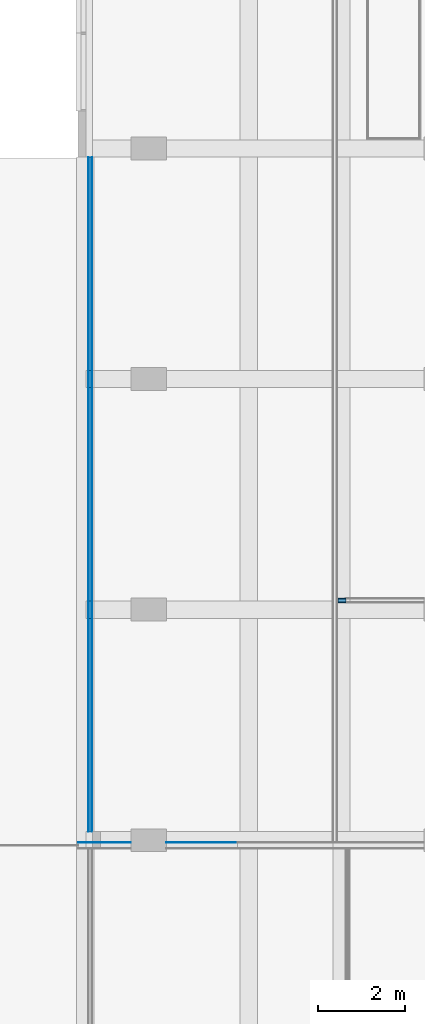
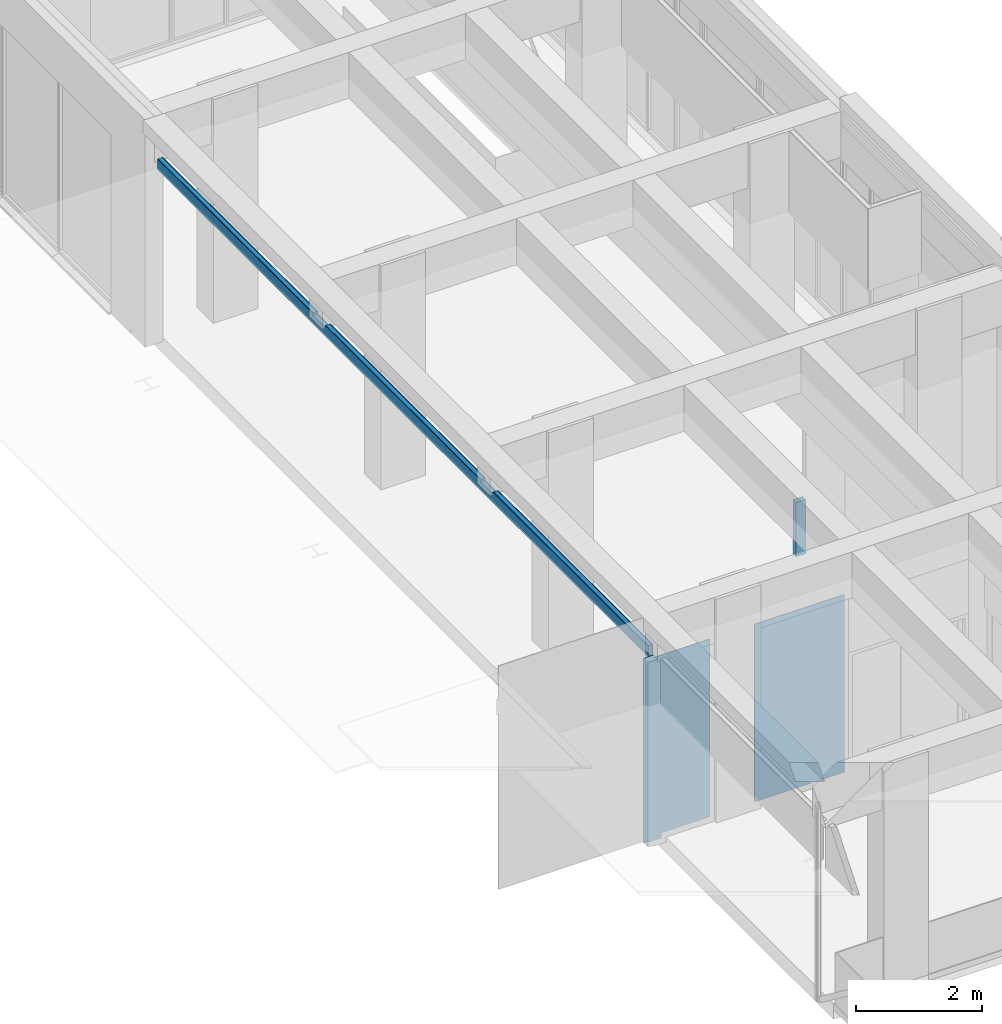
# One storey, part 88 of 117: 7 building element parts, 3 elements without a shape of their own.
"""IFC2X3 building model written with IfcOpenShell, lengths in millimetres."""

from ifc_helpers import new_model, entity, si_unit, converted_unit, derived_unit, money_unit, direction, frame, origin_with_axes, place, context, subcontext, project, spatial, faceted_brep, material, type_object, element, aggregate, save


model = new_model("IFC2X3")

# Units and contexts
model_context = context("Model", 3, precision=0.01, world=origin_with_axes(), true_north=direction((0.0, 1.0)))
body_context = subcontext(model_context, "Body", "Model", "MODEL_VIEW")
ifc_project = project(units=[si_unit("LENGTHUNIT", "METRE", prefix="MILLI"), si_unit("AREAUNIT", "SQUARE_METRE"), si_unit("VOLUMEUNIT", "CUBIC_METRE"), converted_unit("PLANEANGLEUNIT", "DEGREE", entity("IfcPlaneAngleMeasure", 0.0174532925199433), si_unit("PLANEANGLEUNIT", "RADIAN"), dimensions=[0, 0, 0, 0, 0, 0, 0]), money_unit("EUR"), converted_unit("TIMEUNIT", "Year", entity("IfcTimeMeasure", 31557600.0), si_unit("TIMEUNIT", "SECOND"), dimensions=[0, 0, 1, 0, 0, 0, 0]), si_unit("MASSUNIT", "GRAM", prefix="KILO"), si_unit("THERMODYNAMICTEMPERATUREUNIT", "DEGREE_CELSIUS"), si_unit("LUMINOUSINTENSITYUNIT", "LUMEN"), si_unit("ENERGYUNIT", "JOULE", prefix="MEGA"), derived_unit("THERMALCONDUCTANCEUNIT", [(si_unit("POWERUNIT", "WATT"), 1), (si_unit("LENGTHUNIT", "METRE"), -1), (si_unit("THERMODYNAMICTEMPERATUREUNIT", "KELVIN"), -1)]), derived_unit("SPECIFICHEATCAPACITYUNIT", [(si_unit("ENERGYUNIT", "JOULE"), 1), (si_unit("MASSUNIT", "GRAM", prefix="KILO"), -1), (si_unit("THERMODYNAMICTEMPERATUREUNIT", "KELVIN"), -1)]), derived_unit("MASSDENSITYUNIT", [(si_unit("MASSUNIT", "GRAM", prefix="KILO"), 1), (si_unit("VOLUMEUNIT", "CUBIC_METRE"), -1)])], contexts=[model_context])

# Site, building, storey
site_placement = place(None, origin_with_axes())
site = spatial("IfcSite", under=ifc_project, at=site_placement, Name="Site", CompositionType="ELEMENT")
building_placement = place(site_placement, origin_with_axes())
building = spatial("IfcBuilding", under=site, at=building_placement, Name="Naam gebouw", CompositionType="ELEMENT")
storey_placement = place(building_placement, frame((0.0, 0.0, 4150.0), z_axis=(0.0, 0.0, 1.0), x_axis=(1.0, 0.0, 0.0)))
storey = spatial("IfcBuildingStorey", under=building, at=storey_placement, Name="1e verdieping N", CompositionType="ELEMENT", Elevation=4150.0)

# Wall, building element part
wall_type_1 = type_object("IfcWallType", Name="Metalstud iso 150 150", PredefinedType="NOTDEFINED")
wall_1_placement = place(storey_placement, frame((23892.67647959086, 33235.9124251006, -99.99999999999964), z_axis=(0.0, 0.0, 1.0), x_axis=(-1.0, 0.0, 0.0)))
wall_1 = element("IfcWall", 1, at=wall_1_placement, inside=storey, type_object=wall_type_1, Name="_Wand-x")
ifc_material_1 = material(Name="Gipsplaat")
building_element_part_1_placement = place(wall_1_placement, origin_with_axes())
building_element_part_1 = element("IfcBuildingElementPart", 2, at=building_element_part_1_placement, material=ifc_material_1, Name="Gipsplaat", context=body_context, shape_type="Brep", body=[
    faceted_brep([(2466.676479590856, 12.49998490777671, 3549.999999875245), (2466.676479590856, 0.0, 3549.999999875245), (3506.676479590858, 0.0, 3549.999999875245), (3506.676479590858, 12.4999785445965, 3549.999999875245), (2466.676479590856, 0.0, 99.99999999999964), (2466.676479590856, 12.49998423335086, 99.99999999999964), (3356.676479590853, 0.0, 99.99999999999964), (3356.676479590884, 0.0, 0.0), (3596.676479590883, 0.0, 0.0), (3596.676479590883, 0.0, 20.00000000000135), (3681.676479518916, 0.0, 20.00000000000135), (3681.676479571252, 0.0, 99.99999999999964), (3686.676479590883, 0.0, 99.99999999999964), (3686.676479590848, 0.0, 3600.0), (3506.676479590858, 0.0, 3600.0), (3506.676479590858, 12.49998038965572, 3600.0), (3686.676479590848, 12.4999826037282, 3600.0), (3686.676479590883, 12.49999951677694, 99.99999999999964), (3681.676479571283, 12.4999785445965, 99.99999999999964), (3681.676479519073, 12.49999871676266, 20.00000000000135), (3596.676479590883, 12.4999785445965, 20.00000000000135), (3596.676479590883, 12.50000000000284, 0.0), (3356.676479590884, 12.50000000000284, 0.0), (3356.676479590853, 12.4999785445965, 99.99999999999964)], [[[0, 1, 2, 3]], [[4, 1, 0, 5]], [[1, 4, 6, 7, 8, 9, 10, 11, 12, 13, 14, 2]], [[3, 2, 14, 15]], [[5, 0, 3, 15, 16, 17, 18, 19, 20, 21, 22, 23]], [[4, 5, 23, 6]], [[23, 22, 7, 6]], [[21, 8, 7, 22]], [[8, 21, 20, 9]], [[9, 20, 19, 10]], [[19, 18, 11, 10]], [[18, 17, 12, 11]], [[16, 13, 12, 17]], [[16, 15, 14, 13]]]),
    faceted_brep([(1646.676479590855, 0.0, 99.99999999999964), (1646.676479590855, 0.0, 3549.999999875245), (0.0, 0.0, 3549.999999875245), (0.0, 0.0, 99.99999999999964), (1646.676479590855, 12.49998992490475, 3549.999999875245), (1646.676479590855, 12.49998947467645, 99.99999999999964), (0.0, 12.50000000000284, 3549.999999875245), (0.0, 12.50000000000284, 99.99999999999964)], [[[0, 1, 2, 3]], [[4, 1, 0, 5]], [[1, 4, 6, 2]], [[3, 2, 6, 7]], [[5, 0, 3, 7]], [[4, 5, 7, 6]]]),
])
aggregate(wall_1, [building_element_part_1])

# Wall, building element parts
wall_type_2 = type_object("IfcWallType", Name="Metalstud iso 100 100", PredefinedType="NOTDEFINED")
wall_2_placement = place(storey_placement, frame((20536.00000000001, 33485.91242510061, 3300.000000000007), z_axis=(0.0, 0.0, 1.0), x_axis=(0.0, 1.0, 0.0)))
wall_2 = element("IfcWall", 3, at=wall_2_placement, inside=storey, type_object=wall_type_2, Name="_Wand-x")
building_element_part_2_placement = place(wall_2_placement, origin_with_axes())
building_element_part_2 = element("IfcBuildingElementPart", 4, at=building_element_part_2_placement, material=ifc_material_1, Name="Gipsplaat", context=body_context, shape_type="Brep", body=[
    faceted_brep([(10660.0, 100.0000000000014, 199.999999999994), (10660.0, 87.49999999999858, 199.999999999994), (15589.99999999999, 87.49999999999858, 199.999999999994), (15589.99999999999, 100.0000000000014, 199.999999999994), (10660.0, 87.49999999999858, 149.9999999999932), (10660.0, 100.0000000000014, 149.9999999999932), (10259.99999999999, 87.49999999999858, 149.9999999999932), (10259.99999999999, 87.49999999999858, 199.999999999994), (5329.999999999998, 87.49999999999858, 199.999999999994), (5329.999999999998, 87.49999999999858, 149.9999999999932), (4929.999999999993, 87.49999999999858, 149.9999999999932), (4929.999999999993, 87.49999999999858, 199.999999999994), (0.0, 87.49999999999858, 199.999999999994), (0.0, 87.49999999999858, 0.0), (15589.99999999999, 87.49999999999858, 0.0), (15589.99999999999, 100.0000000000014, 0.0), (0.0, 100.0000000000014, 0.0), (0.0, 100.0000000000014, 199.999999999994), (4929.999999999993, 100.0000000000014, 199.999999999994), (4929.999999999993, 100.0000000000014, 149.9999999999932), (5329.999999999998, 100.0000000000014, 149.9999999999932), (5329.999999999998, 100.0000000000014, 199.999999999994), (10259.99999999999, 100.0000000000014, 199.999999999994), (10259.99999999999, 100.0000000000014, 149.9999999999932)], [[[0, 1, 2, 3]], [[4, 1, 0, 5]], [[6, 7, 8, 9, 10, 11, 12, 13, 14, 2, 1, 4]], [[3, 2, 14, 15]], [[5, 0, 3, 15, 16, 17, 18, 19, 20, 21, 22, 23]], [[6, 4, 5, 23]], [[22, 7, 6, 23]], [[7, 22, 21, 8]], [[9, 8, 21, 20]], [[10, 9, 20, 19]], [[18, 11, 10, 19]], [[11, 18, 17, 12]], [[13, 12, 17, 16]], [[16, 15, 14, 13]]]),
])
building_element_part_3_placement = place(wall_2_placement, origin_with_axes())
building_element_part_3 = element("IfcBuildingElementPart", 5, at=building_element_part_3_placement, material=ifc_material_1, Name="Gipsplaat", context=body_context, shape_type="Brep", body=[
    faceted_brep([(10660.0, 12.49999999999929, 199.999999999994), (10660.0, 0.0, 199.999999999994), (15589.99999999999, 0.0, 199.999999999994), (15589.99999999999, 12.49999999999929, 199.999999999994), (10660.0, 0.0, 149.9999999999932), (10660.0, 12.49999999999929, 149.9999999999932), (10259.99999999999, 0.0, 149.9999999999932), (10259.99999999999, 0.0, 199.999999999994), (5329.999999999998, 0.0, 199.999999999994), (5329.999999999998, 0.0, 149.9999999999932), (4929.999999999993, 0.0, 149.9999999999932), (4929.999999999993, 0.0, 199.999999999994), (0.0, 0.0, 199.999999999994), (0.0, 0.0, 0.0), (15589.99999999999, 0.0, 0.0), (15589.99999999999, 12.49999999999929, 0.0), (0.0, 12.49999999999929, 0.0), (0.0, 12.49999999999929, 199.999999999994), (4929.999999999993, 12.49999999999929, 199.999999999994), (4929.999999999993, 12.49999999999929, 149.9999999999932), (5329.999999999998, 12.49999999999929, 149.9999999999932), (5329.999999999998, 12.49999999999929, 199.999999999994), (10259.99999999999, 12.49999999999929, 199.999999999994), (10259.99999999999, 12.49999999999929, 149.9999999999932)], [[[0, 1, 2, 3]], [[4, 1, 0, 5]], [[6, 7, 8, 9, 10, 11, 12, 13, 14, 2, 1, 4]], [[3, 2, 14, 15]], [[5, 0, 3, 15, 16, 17, 18, 19, 20, 21, 22, 23]], [[6, 4, 5, 23]], [[22, 7, 6, 23]], [[7, 22, 21, 8]], [[9, 8, 21, 20]], [[10, 9, 20, 19]], [[18, 11, 10, 19]], [[11, 18, 17, 12]], [[13, 12, 17, 16]], [[16, 15, 14, 13]]]),
])
ifc_material_2 = material(Name="Isolatie - Steenwol LSW")
building_element_part_4_placement = place(wall_2_placement, origin_with_axes())
building_element_part_4 = element("IfcBuildingElementPart", 6, at=building_element_part_4_placement, material=ifc_material_2, Name="Isolatie - Steenwol LSW", context=body_context, shape_type="Brep", body=[
    faceted_brep([(10660.0, 87.49999999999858, 199.999999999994), (10660.0, 12.49999999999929, 199.999999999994), (15589.99999999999, 12.49999999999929, 199.999999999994), (15589.99999999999, 87.49999999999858, 199.999999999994), (10660.0, 12.49999999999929, 149.9999999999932), (10660.0, 87.49999999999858, 149.9999999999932), (10259.99999999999, 12.49999999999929, 149.9999999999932), (10259.99999999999, 12.49999999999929, 199.999999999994), (5329.999999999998, 12.49999999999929, 199.999999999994), (5329.999999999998, 12.49999999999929, 149.9999999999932), (4929.999999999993, 12.49999999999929, 149.9999999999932), (4929.999999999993, 12.49999999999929, 199.999999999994), (0.0, 12.49999999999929, 199.999999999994), (0.0, 12.49999999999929, 0.0), (15589.99999999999, 12.49999999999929, 0.0), (15589.99999999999, 87.49999999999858, 0.0), (0.0, 87.49999999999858, 0.0), (0.0, 87.49999999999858, 199.999999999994), (4929.999999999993, 87.49999999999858, 199.999999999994), (4929.999999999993, 87.49999999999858, 149.9999999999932), (5329.999999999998, 87.49999999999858, 149.9999999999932), (5329.999999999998, 87.49999999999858, 199.999999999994), (10259.99999999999, 87.49999999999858, 199.999999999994), (10259.99999999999, 87.49999999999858, 149.9999999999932)], [[[0, 1, 2, 3]], [[4, 1, 0, 5]], [[6, 7, 8, 9, 10, 11, 12, 13, 14, 2, 1, 4]], [[3, 2, 14, 15]], [[5, 0, 3, 15, 16, 17, 18, 19, 20, 21, 22, 23]], [[6, 4, 5, 23]], [[22, 7, 6, 23]], [[7, 22, 21, 8]], [[9, 8, 21, 20]], [[10, 9, 20, 19]], [[18, 11, 10, 19]], [[11, 18, 17, 12]], [[13, 12, 17, 16]], [[16, 15, 14, 13]]]),
])
aggregate(wall_2, [building_element_part_2, building_element_part_3, building_element_part_4])

wall_3_placement = place(storey_placement, frame((26212.0, 38778.41242510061, 0.0), z_axis=(0.0, 0.0, 1.0), x_axis=(1.0, 0.0, 0.0)))
wall_3 = element("IfcWall", 7, at=wall_3_placement, inside=storey, type_object=wall_type_2, Name="_Wand-x")
building_element_part_5_placement = place(wall_3_placement, origin_with_axes())
building_element_part_5 = element("IfcBuildingElementPart", 8, at=building_element_part_5_placement, material=ifc_material_1, Name="Gipsplaat", context=body_context, shape_type="Brep", body=[
    faceted_brep([(179.9999999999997, 87.49999999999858, 1050.0), (179.9999999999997, 100.0000000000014, 1050.0), (0.0, 100.0000000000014, 1050.0), (0.0, 87.49999999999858, 1050.0), (179.9999999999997, 87.49999999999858, 0.0), (179.9999999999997, 100.0000000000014, 0.0), (0.0, 100.0000000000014, 0.0), (0.0, 87.49999999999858, 0.0)], [[[0, 1, 2, 3]], [[0, 4, 5, 1]], [[1, 5, 6, 2]], [[3, 2, 6, 7]], [[4, 0, 3, 7]], [[5, 4, 7, 6]]]),
])
building_element_part_6_placement = place(wall_3_placement, origin_with_axes())
building_element_part_6 = element("IfcBuildingElementPart", 9, at=building_element_part_6_placement, material=ifc_material_2, Name="Isolatie - Steenwol LSW", context=body_context, shape_type="Brep", body=[
    faceted_brep([(179.9999999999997, 12.50000000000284, 1050.0), (179.9999999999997, 87.49999999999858, 1050.0), (0.0, 87.49999999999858, 1050.0), (0.0, 12.50000000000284, 1050.0), (179.9999999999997, 12.50000000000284, 0.0), (179.9999999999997, 87.49999999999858, 0.0), (0.0, 87.49999999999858, 0.0), (0.0, 12.50000000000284, 0.0)], [[[0, 1, 2, 3]], [[0, 4, 5, 1]], [[1, 5, 6, 2]], [[3, 2, 6, 7]], [[4, 0, 3, 7]], [[5, 4, 7, 6]]]),
])
building_element_part_7_placement = place(wall_3_placement, origin_with_axes())
building_element_part_7 = element("IfcBuildingElementPart", 10, at=building_element_part_7_placement, material=ifc_material_1, Name="Gipsplaat", context=body_context, shape_type="Brep", body=[
    faceted_brep([(179.9999999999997, 0.0, 1050.0), (179.9999999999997, 12.50000000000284, 1050.0), (0.0, 12.50000000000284, 1050.0), (0.0, 0.0, 1050.0), (179.9999999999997, 0.0, 0.0), (179.9999999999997, 12.50000000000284, 0.0), (0.0, 12.50000000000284, 0.0), (0.0, 0.0, 0.0)], [[[0, 1, 2, 3]], [[0, 4, 5, 1]], [[1, 5, 6, 2]], [[3, 2, 6, 7]], [[4, 0, 3, 7]], [[5, 4, 7, 6]]]),
])
aggregate(wall_3, [building_element_part_5, building_element_part_6, building_element_part_7])

save(model, "model.ifc")
